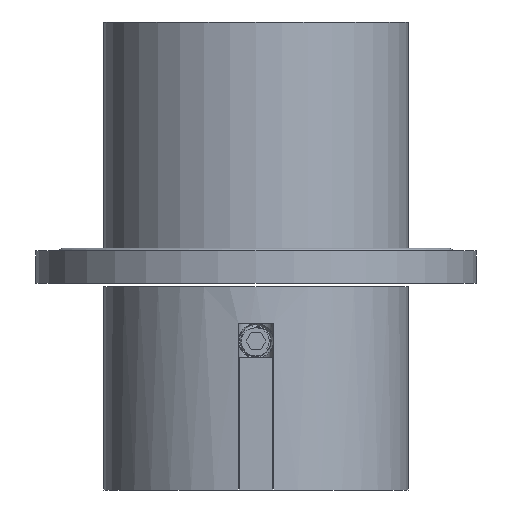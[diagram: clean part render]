
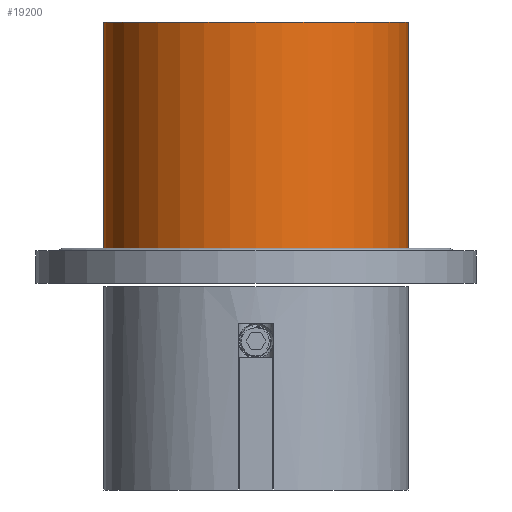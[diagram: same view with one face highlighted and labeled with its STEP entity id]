
A CAD part, front view. The second image highlights one B-rep face of the part: STEP entity #19200.
In plain terms, the highlighted cylindrical face has radius 22.5 mm (diameter 45 mm), a partial arc.
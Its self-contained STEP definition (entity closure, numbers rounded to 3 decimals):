
#19052=CARTESIAN_POINT('',(0.,0.,0.));
#19053=DIRECTION('',(0.,1.,0.));
#19054=DIRECTION('',(1.,0.,0.));
#19055=AXIS2_PLACEMENT_3D('',#19052,#19053,#19054);
#19072=DIRECTION('',(0.,1.,0.));
#19073=VECTOR('',#19072,38.6);
#19074=CARTESIAN_POINT('',(22.5,0.,0.));
#19075=LINE('',#19074,#19073);
#19076=DIRECTION('',(0.,1.,0.));
#19077=VECTOR('',#19076,38.6);
#19078=CARTESIAN_POINT('',(-22.5,0.,0.));
#19079=LINE('',#19078,#19077);
#19080=CARTESIAN_POINT('',(0.,38.6,0.));
#19081=DIRECTION('',(0.,1.,0.));
#19082=DIRECTION('',(1.,0.,0.));
#19083=AXIS2_PLACEMENT_3D('',#19080,#19081,#19082);
#19144=CARTESIAN_POINT('',(22.5,0.,0.));
#19145=CARTESIAN_POINT('',(-22.5,0.,0.));
#19146=VERTEX_POINT('',#19144);
#19147=VERTEX_POINT('',#19145);
#19148=CARTESIAN_POINT('',(22.5,38.6,0.));
#19149=CARTESIAN_POINT('',(-22.5,38.6,0.));
#19150=VERTEX_POINT('',#19148);
#19151=VERTEX_POINT('',#19149);
#19186=CARTESIAN_POINT('',(0.,0.,0.));
#19187=DIRECTION('',(0.,1.,0.));
#19188=DIRECTION('',(1.,0.,0.));
#19189=AXIS2_PLACEMENT_3D('',#19186,#19187,#19188);
#19190=CYLINDRICAL_SURFACE('',#19189,22.5);
#19191=ORIENTED_EDGE('',*,*,#19173,.F.);
#19193=ORIENTED_EDGE('',*,*,#19192,.T.);
#19195=ORIENTED_EDGE('',*,*,#19194,.T.);
#19197=ORIENTED_EDGE('',*,*,#19196,.F.);
#19198=EDGE_LOOP('',(#19191,#19193,#19195,#19197));
#19199=FACE_OUTER_BOUND('',#19198,.F.);
#19056=CIRCLE('',#19055,22.5);
#19084=CIRCLE('',#19083,22.5);
#19173=EDGE_CURVE('',#19146,#19147,#19056,.T.);
#19192=EDGE_CURVE('',#19146,#19150,#19075,.T.);
#19194=EDGE_CURVE('',#19150,#19151,#19084,.T.);
#19196=EDGE_CURVE('',#19147,#19151,#19079,.T.);
#19200=ADVANCED_FACE('',(#19199),#19190,.T.);
